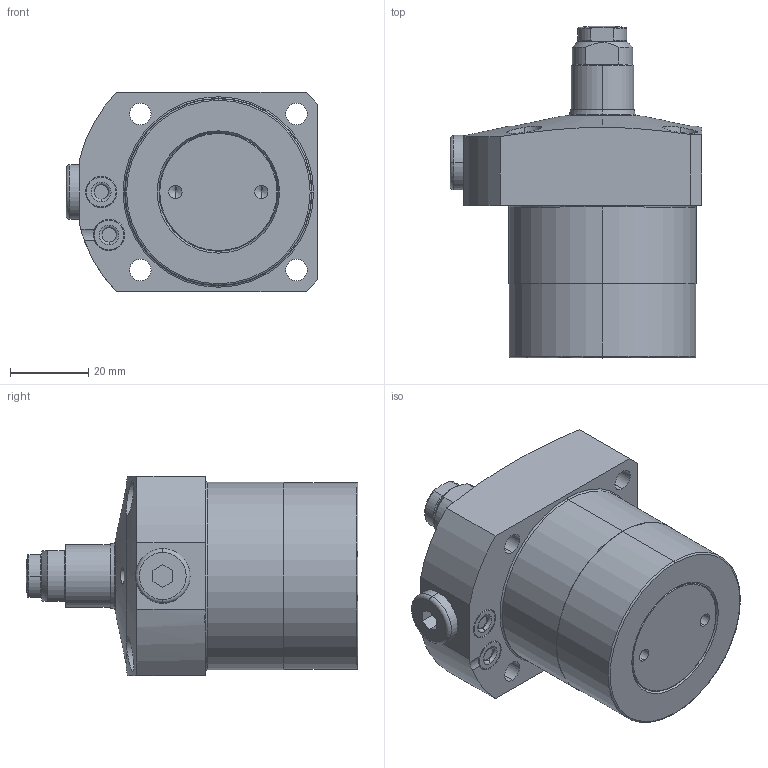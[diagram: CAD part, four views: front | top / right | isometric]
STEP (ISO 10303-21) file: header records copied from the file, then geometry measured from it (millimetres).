
FILE_DESCRIPTION(/* description */ (''),/* implementation_level */ '2;1');
FILE_NAME(/* name */ 'KFSS48.stp',/* time_stamp */ '2026-02-06T09:42:29+08:00',/* author */ (''),/* organization */ (''),/* preprocessor_version */ 'ST-DEVELOPER v16.7',/* originating_system */ 'SIEMENS PLM Software NX 12.0',/* authorisation */ '');
FILE_SCHEMA (('AUTOMOTIVE_DESIGN { 1 0 10303 214 3 1 1 1 }'));
Length unit declared in the file: millimetre
Products named in the file (8): XLC-M10_contactbolt; XLC-M10_Oring; KFSS48-04; KFSS48-02; KFSS48-05; KFSS48-01; KFSS48-03; LC0483-Cx-E_step
Assembly tree (8 placements, depth 3):
  LC0483-Cx-E_step
    KFSS48-01
    KFSS48-03
      XLC-M10_Oring
      XLC-M10_contactbolt
    KFSS48-05  x2
    KFSS48-02
    KFSS48-04
Bounding box: 64.5 x 85 x 51 mm (x, y, z)
Volume: 130699.6 mm3; surface area: 21847 mm2
Topology: 7 solids, 7 shells, 236 faces, 530 edges, 320 vertices
Faces by surface type: cylinder 79, torus 60, plane 54, cone 41, sphere 2
Entity records: 6848 total; most frequent: CARTESIAN_POINT 1430, DIRECTION 1212, ORIENTED_EDGE 996, AXIS2_PLACEMENT_3D 526, EDGE_CURVE 498, VERTEX_POINT 306, CIRCLE 293, EDGE_LOOP 256
